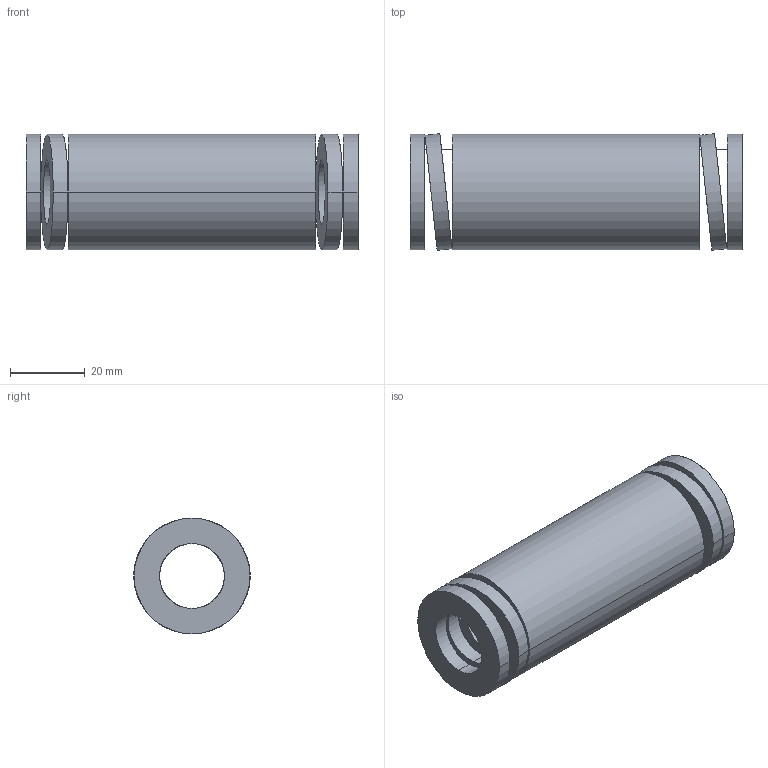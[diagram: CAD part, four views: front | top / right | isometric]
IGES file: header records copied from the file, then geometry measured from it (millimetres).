
Start section: START RECORD GO HERE.
Global section: file name: 392-B32-089.igs; native system: DASSAULT SYSTEMES CATIA V5 R20 - www.3ds.com; preprocessor: CATIA Version 5 Release 20 ; author: Utente; organization: NB04-ASUS; date: 20210813.120808; units: millimetre
Bounding box: 89 x 31.25 x 31 mm (x, y, z)
Surface area: 17680.7 mm2 (no closed solid volume)
Topology: 0 solids, 0 shells, 38 faces, 184 edges, 184 vertices
Faces by surface type: revolution 28, plane 10
